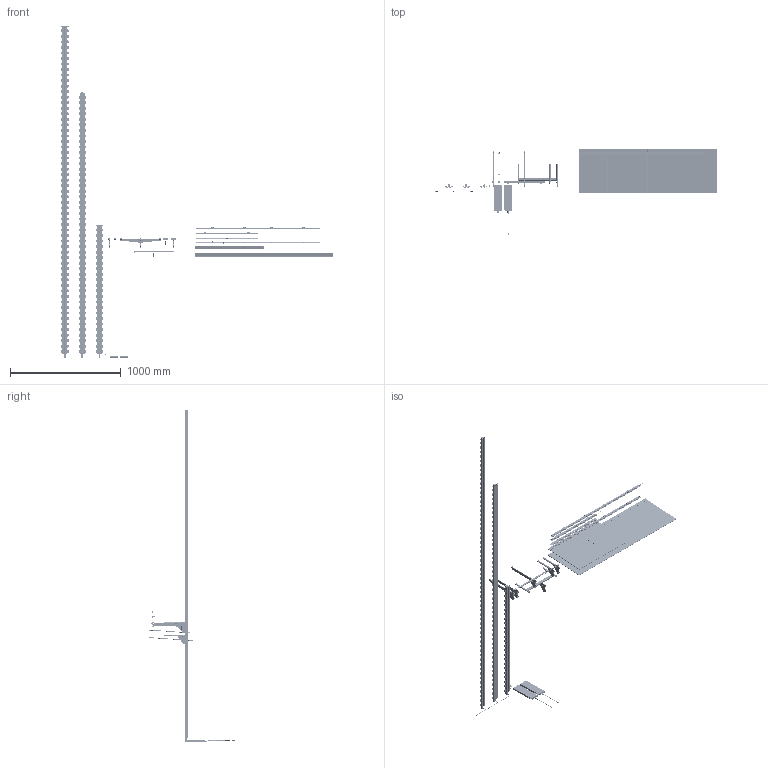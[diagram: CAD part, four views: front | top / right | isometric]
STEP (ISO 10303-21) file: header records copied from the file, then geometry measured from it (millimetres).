
FILE_DESCRIPTION(/* description */ (''),/* implementation_level */ '2;1');
FILE_NAME(/* name */ 'Xero4EVO_All',/* time_stamp */ '2026-04-07T11:34:35+02:00',/* author */ (''),/* organization */ (''),/* preprocessor_version */ 'ST-DEVELOPER v19.2',/* originating_system */ 'Rhino 8.28',/* authorisation */ '');
FILE_SCHEMA (('AUTOMOTIVE_DESIGN_CC2'));
Products named in the file (1): Document
Bounding box: 2544.2 x 779.52 x 3000 mm (x, y, z)
Volume: 8146142.6 mm3; surface area: 4614211.1 mm2
Topology: 126 solids, 126 shells, 18584 faces, 52408 edges, 34694 vertices
Faces by surface type: plane 13894, cylinder 2729, bspline 1961
Entity records: 643825 total; most frequent: CARTESIAN_POINT 265598, ORIENTED_EDGE 104740, EDGE_CURVE 52370, B_SPLINE_CURVE_WITH_KNOTS 46012, VERTEX_POINT 34694, DIRECTION 28687, AXIS2_PLACEMENT_3D 22655, EDGE_LOOP 19600
